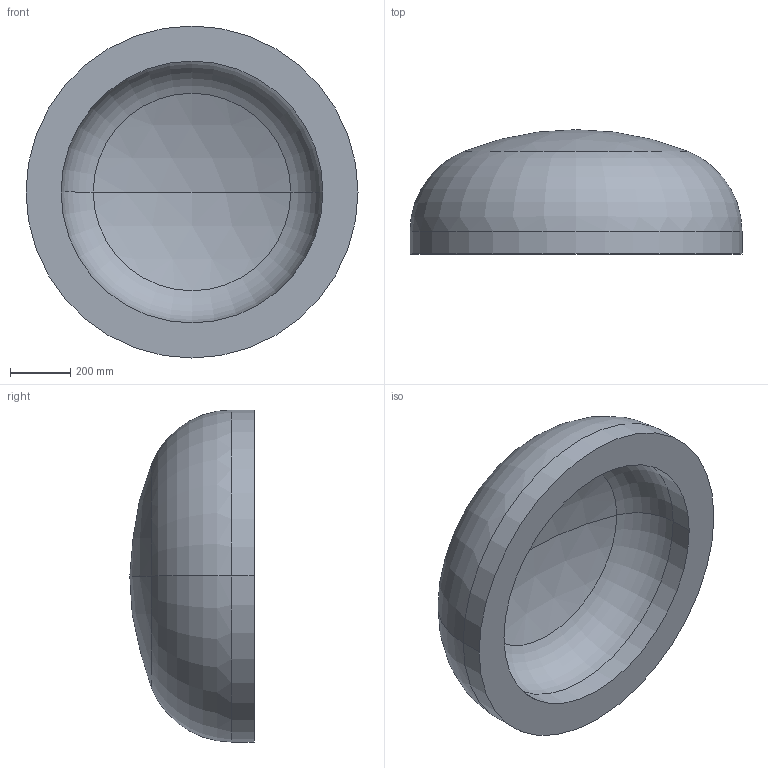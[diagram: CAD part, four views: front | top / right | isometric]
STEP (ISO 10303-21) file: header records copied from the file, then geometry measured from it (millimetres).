
FILE_DESCRIPTION (( 'STEP AP203' ), '1' );
FILE_NAME ('DIN 28013 Korbbogenform_-_Boden DIN 28013 - 1100 x 75 - I - s=116.step', '2016-07-01T09:18:05', ( '' ), ( '' ), 'SwSTEP 2.0', 'SolidWorks 2013', '' );
FILE_SCHEMA (( 'CONFIG_CONTROL_DESIGN' ));
Length unit declared in the file: millimetre
Products named in the file (1): DIN 28013 Korbbogenform_-_Boden DIN 28013 - 1100 x 75 - I - s=116
Bounding box: 1100 x 411.91 x 1100 mm (x, y, z)
Volume: 161061071.4 mm3; surface area: 3163690.7 mm2
Topology: 1 solids, 1 shells, 13 faces, 24 edges, 14 vertices
Faces by surface type: torus 4, cylinder 4, sphere 4, plane 1
Entity records: 407 total; most frequent: DIRECTION 72, CARTESIAN_POINT 52, ORIENTED_EDGE 48, AXIS2_PLACEMENT_3D 34, EDGE_CURVE 24, CIRCLE 20, VERTEX_POINT 14, EDGE_LOOP 14
